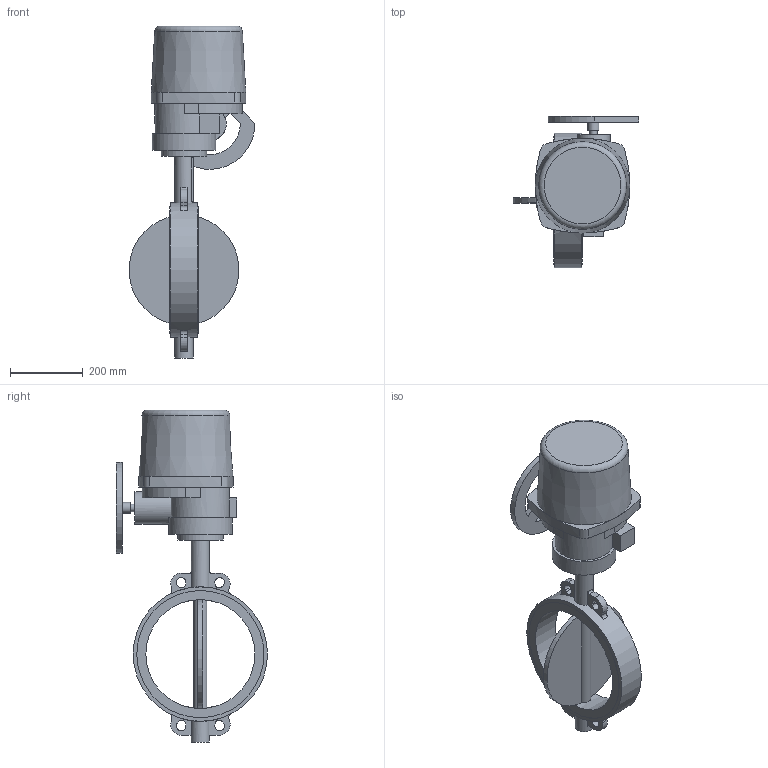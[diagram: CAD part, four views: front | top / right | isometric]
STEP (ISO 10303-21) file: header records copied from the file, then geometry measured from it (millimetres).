
FILE_DESCRIPTION(('STEP AP203'), '1');
FILE_NAME('青蜮铕 017WDN300+菹 QT80-1', '', ('UNSPECIFIED'), ('UNSPECIFIED'), 'ASCON STEP Converter 1.6', 'ASCON Math Kernel', '');
FILE_SCHEMA(('CONFIG_CONTROL_DESIGN'));
Length unit declared in the file: millimetre
Bounding box: 345.95 x 416 x 914 mm (x, y, z)
Volume: 15715433.9 mm3; surface area: 970072.9 mm2
Topology: 1 solids, 2 shells, 755 faces, 2200 edges, 1420 vertices
Faces by surface type: cylinder 528, plane 221, torus 5, cone 1
Full cylindrical faces by diameter (mm): 10 x4, 12 x4, 20.595 x1, 30 x1, 31.6 x1, 50 x2, 70 x1, 90 x1, 125 x1, 175 x1, 300 x1, 350 x2, 370 x1
Entity records: 32761 total; most frequent: CARTESIAN_POINT 5712, DIRECTION 4799, ORIENTED_EDGE 4293, EDGE_CURVE 2178, AXIS2_PLACEMENT_3D 1893, VERTEX_POINT 1420, CIRCLE 1137, LINE 1013
